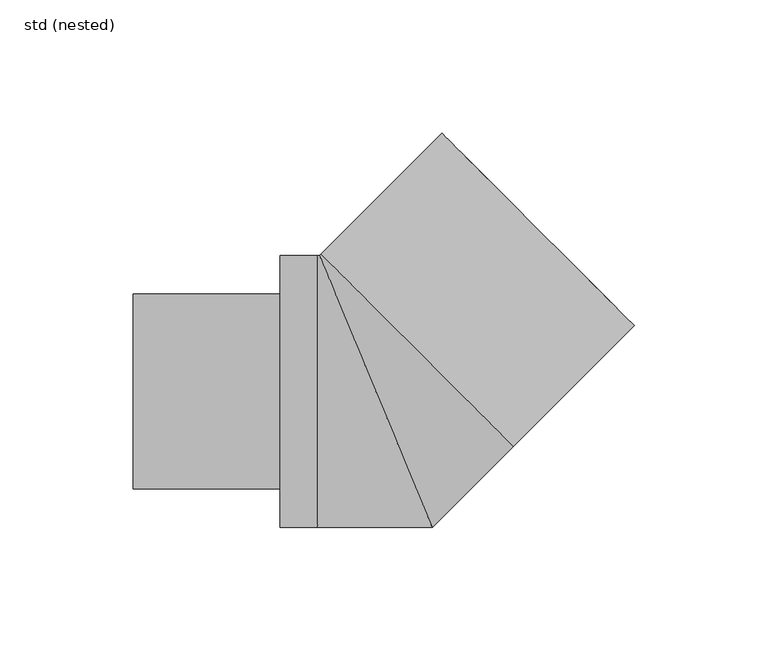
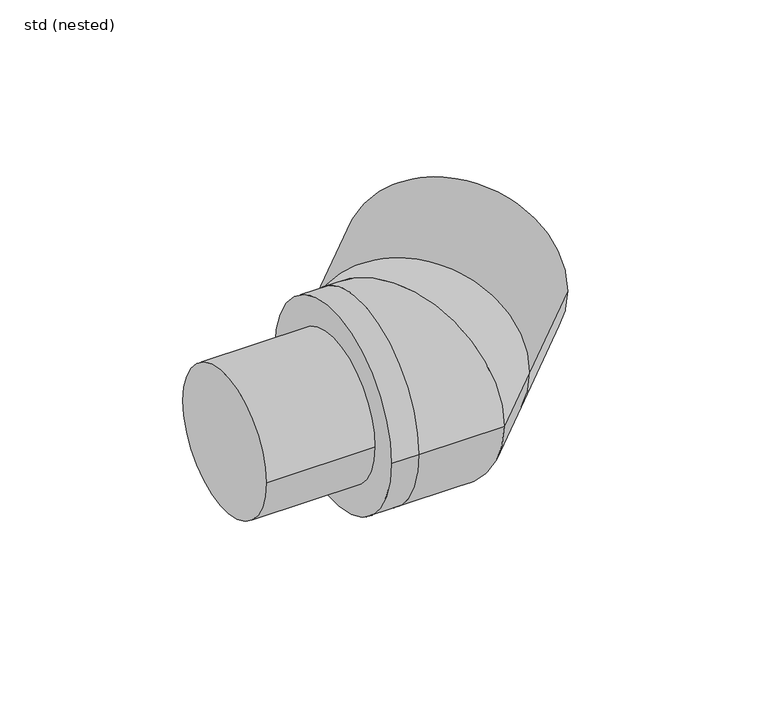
"""IFC4 building model written with IfcOpenShell, lengths in millimetres: pipe fitting geometry, ZZZ_do not use_PIF_ST_WPB_GM-X compound pipe bend_ACO : std (nested)."""

from ifc_helpers import new_model, si_unit, point, frame, origin, origin_2d, place, context, project, spatial, polyline, circle_curve, ellipse_curve, trimmed, segment, composite_curve, outline, extrude, source, transform, mapped, element, save
from ifc_brep_helpers import plane_surface, cylinder_surface, revolved_surface, advanced_brep


def std_nested_86b862b6(model_context):
    return source(origin(), model_context, "Body", "SolidModel", [
        advanced_brep(
        [(26.8700577, 86.4084487, 0.0), (86.4084487, 26.8700577, 0.0), (72.1956024, 12.6572114, 0.0), (12.6572114, 72.1956024, 0.0), (87.6812409, 33.9411255, 0.0), (33.9411255, 87.6812409, 0.0), (35.0017857, 86.6205807, 0.0), (86.6205807, 35.0017857, 0.0), (48.7903679, -4.9497475, 0.0), (-4.9497475, 48.7903679, 0.0), (47.7297077, -3.8890873, 0.0), (-3.8890873, 47.7297077, 0.0), (83.5093109, 29.7691955, 0.0), (29.7691955, 83.5093109, 0.0), (15.5563492, 69.2964646, 0.0), (69.2964646, 15.5563492, 0.0)],
        [
            (0, 1, circle_curve(frame((56.6392532, 56.6392532, 0.0), z_axis=(-0.7071067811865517, -0.7071067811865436, 0.0), x_axis=(-0.7071067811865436, 0.7071067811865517, 0.0)), 42.1)),
            (1, 2),
            (2, 3, circle_curve(frame((42.4264069, 42.4264069, 0.0), z_axis=(0.7071067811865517, 0.7071067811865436, 0.0), x_axis=(-0.7071067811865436, 0.7071067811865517, 0.0)), 42.1)),
            (3, 0),
            (1, 0, circle_curve(frame((56.6392532, 56.6392532, 0.0), z_axis=(-0.7071067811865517, -0.7071067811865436, 0.0), x_axis=(-0.7071067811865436, 0.7071067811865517, 0.0)), 42.1)),
            (3, 2, circle_curve(frame((42.4264069, 42.4264069, 0.0), z_axis=(0.7071067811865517, 0.7071067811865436, 0.0), x_axis=(-0.7071067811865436, 0.7071067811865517, 0.0)), 42.1)),
            (4, 5, circle_curve(frame((60.8111832, 60.8111832, 0.0), z_axis=(0.7071067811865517, 0.7071067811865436, 0.0), x_axis=(-0.7071067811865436, 0.7071067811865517, 0.0)), 38.0)),
            (5, 4, circle_curve(frame((60.8111832, 60.8111832, 0.0), z_axis=(0.7071067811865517, 0.7071067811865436, 0.0), x_axis=(-0.7071067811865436, 0.7071067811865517, 0.0)), 38.0)),
            (6, 7, circle_curve(frame((60.8111832, 60.8111832, 0.0), z_axis=(-0.7071067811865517, -0.7071067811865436, 0.0), x_axis=(-0.7071067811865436, 0.7071067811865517, 0.0)), 36.5)),
            (7, 6, circle_curve(frame((60.8111832, 60.8111832, 0.0), z_axis=(-0.7071067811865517, -0.7071067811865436, 0.0), x_axis=(-0.7071067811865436, 0.7071067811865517, 0.0)), 36.5)),
            (8, 9, circle_curve(frame((21.9203102, 21.9203102, 0.0), z_axis=(-0.7071067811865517, -0.7071067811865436, 0.0), x_axis=(-0.7071067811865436, 0.7071067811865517, 0.0)), 38.0)),
            (9, 8, circle_curve(frame((21.9203102, 21.9203102, 0.0), z_axis=(-0.7071067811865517, -0.7071067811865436, 0.0), x_axis=(-0.7071067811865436, 0.7071067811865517, 0.0)), 38.0)),
            (10, 11, circle_curve(frame((21.9203102, 21.9203102, 0.0), z_axis=(0.7071067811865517, 0.7071067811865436, 0.0), x_axis=(-0.7071067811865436, 0.7071067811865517, 0.0)), 36.5)),
            (11, 10, circle_curve(frame((21.9203102, 21.9203102, 0.0), z_axis=(0.7071067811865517, 0.7071067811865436, 0.0), x_axis=(-0.7071067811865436, 0.7071067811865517, 0.0)), 36.5)),
            (4, 12),
            (12, 13, circle_curve(frame((56.6392532, 56.6392532, 0.0), z_axis=(0.7071067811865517, 0.7071067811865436, 0.0), x_axis=(-0.7071067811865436, 0.7071067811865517, 0.0)), 38.0)),
            (13, 5),
            (9, 14),
            (14, 15, circle_curve(frame((42.4264069, 42.4264069, 0.0), z_axis=(-0.7071067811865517, -0.7071067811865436, 0.0), x_axis=(-0.7071067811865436, 0.7071067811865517, 0.0)), 38.0)),
            (15, 8),
            (13, 12, circle_curve(frame((56.6392532, 56.6392532, 0.0), z_axis=(0.7071067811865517, 0.7071067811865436, 0.0), x_axis=(-0.7071067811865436, 0.7071067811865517, 0.0)), 38.0)),
            (15, 14, circle_curve(frame((42.4264069, 42.4264069, 0.0), z_axis=(-0.7071067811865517, -0.7071067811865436, 0.0), x_axis=(-0.7071067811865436, 0.7071067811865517, 0.0)), 38.0)),
            (6, 11),
            (10, 7),
        ],
        [
            cylinder_surface(frame((42.4264069, 42.4264069, 0.0), z_axis=(0.7071067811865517, 0.7071067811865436, 0.0), x_axis=(-0.7071067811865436, 0.7071067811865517, 0.0)), 42.1),
            plane_surface(frame((33.9411255, 87.6812409, 0.0), z_axis=(0.7071067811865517, 0.7071067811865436, 0.0), x_axis=(0.0, 0.0, 1.0))),
            plane_surface(frame((-4.9497475, 48.7903679, 0.0), z_axis=(-0.7071067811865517, -0.7071067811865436, 0.0), x_axis=(0.0, 0.0, -1.0))),
            cylinder_surface(frame((21.9203102, 21.9203102, 0.0), z_axis=(0.7071067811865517, 0.7071067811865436, 0.0), x_axis=(-0.7071067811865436, 0.7071067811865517, 0.0)), 38.0),
            revolved_surface(polyline([(35.00178568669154, 86.62058071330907, 0.0), (-3.8890873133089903, 47.72970771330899, 0.0)]), (21.9203102, 21.9203102, 0.0), (0.7071067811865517, 0.7071067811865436, 0.0)),
            plane_surface(frame((26.8700577, 86.4084487, 0.0), z_axis=(0.7071067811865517, 0.7071067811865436, 0.0), x_axis=(0.0, 0.0, 1.0))),
            plane_surface(frame((12.6572114, 72.1956024, 0.0), z_axis=(-0.7071067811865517, -0.7071067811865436, 0.0), x_axis=(0.0, 0.0, -1.0))),
        ],
        [
            (0, [[1, 2, 3, 4]]),
            (0, [[5, -4, 6, -2]]),
            (1, [[7, 8], [9, 10]]),
            (2, [[11, 12], [13, 14]]),
            (3, [[-7, 15, 16, 17]]),
            (3, [[-12, 18, 19, 20]]),
            (3, [[-8, -17, 21, -15]]),
            (3, [[-11, -20, 22, -18]]),
            (4, [[23, -13, 24, -9]]),
            (4, [[-23, -10, -24, -14]]),
            (5, [[-1, -5], [-16, -21]]),
            (6, [[-6, -3], [-19, -22]]),
        ],
    ),
        extrude(outline(composite_curve([segment(trimmed(circle_curve(origin_2d(), 36.5), [point((-36.5, 0.0))], [point((36.5, 0.0))], False, "CARTESIAN"), True, "CONTINUOUS"), segment(trimmed(circle_curve(origin_2d(), 36.5), [point((36.5, 0.0))], [point((-36.5, 0.0))], False, "CARTESIAN"), True, "CONTINUOUS")], self_intersect=False)), frame((-91.0, 0.0, 0.0), z_axis=(1.0, 0.0, 0.0), x_axis=(0.0, 1.0, 0.0)), (0.0, 0.0, 1.0), 55.0),
        advanced_brep(
        [(24.7487373, 96.873629, 0.0), (96.873629, 24.7487373, 0.0), (87.6812409, 33.9411255, 0.0), (33.9411255, 87.6812409, 0.0), (-20.5391052, 51.5857864, 0.0), (51.5857864, -20.5391052, 0.0), (-21.9533188, -51.0, 0.0), (21.1248917, -51.0, 0.0), (-21.1248917, 51.0, 0.0), (-21.9533188, 51.0, 0.0), (-4.9497475, 48.7903679, 0.0), (48.7903679, -4.9497475, 0.0), (-36.0, -51.0, 0.0), (-36.0, 51.0, 0.0)],
        [
            (0, 1, circle_curve(frame((60.8111832, 60.8111832, 0.0), z_axis=(0.7071067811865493, 0.7071067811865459, 0.0), x_axis=(0.7071067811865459, -0.7071067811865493, 0.0)), 51.0)),
            (1, 0, circle_curve(frame((60.8111832, 60.8111832, 0.0), z_axis=(0.7071067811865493, 0.7071067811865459, 0.0), x_axis=(0.7071067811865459, -0.7071067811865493, 0.0)), 51.0)),
            (2, 3, circle_curve(frame((60.8111832, 60.8111832, 0.0), z_axis=(-0.7071067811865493, -0.7071067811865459, 0.0), x_axis=(0.7071067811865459, -0.7071067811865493, 0.0)), 38.0)),
            (3, 2, circle_curve(frame((60.8111832, 60.8111832, 0.0), z_axis=(-0.7071067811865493, -0.7071067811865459, 0.0), x_axis=(0.7071067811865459, -0.7071067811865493, 0.0)), 38.0)),
            (0, 4),
            (4, 5, circle_curve(frame((15.5233406, 15.5233406, 0.0), z_axis=(0.7071067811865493, 0.7071067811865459, 0.0), x_axis=(0.7071067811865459, -0.7071067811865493, 0.0)), 51.0)),
            (5, 1),
            (5, 4, circle_curve(frame((15.5233406, 15.5233406, 0.0), z_axis=(0.7071067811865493, 0.7071067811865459, 0.0), x_axis=(0.7071067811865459, -0.7071067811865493, 0.0)), 51.0)),
            (6, 7),
            (7, 8, ellipse_curve(frame((0.0, 0.0, 0.0), z_axis=(-0.9238795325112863, -0.38268343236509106, 0.0), x_axis=(-0.3826834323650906, 0.9238795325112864, 0.0)), 55.2020022, 51.0)),
            (8, 9),
            (9, 6, circle_curve(frame((-21.9533188, 0.0, 0.0), z_axis=(1.0, 0.0, 0.0), x_axis=(0.0, 1.0, 0.0)), 51.0)),
            (6, 9, circle_curve(frame((-21.9533188, 0.0, 0.0), z_axis=(1.0, 0.0, 0.0), x_axis=(0.0, 1.0, 0.0)), 51.0)),
            (8, 7, ellipse_curve(frame((0.0, 0.0, 0.0), z_axis=(-0.9238795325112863, -0.38268343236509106, 0.0), x_axis=(-0.3826834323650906, 0.9238795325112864, 0.0)), 55.2020022, 51.0)),
            (7, 5),
            (4, 8),
            (10, 11, circle_curve(frame((21.9203102, 21.9203102, 0.0), z_axis=(0.7071067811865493, 0.7071067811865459, 0.0), x_axis=(0.7071067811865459, -0.7071067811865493, 0.0)), 38.0)),
            (11, 10, circle_curve(frame((21.9203102, 21.9203102, 0.0), z_axis=(0.7071067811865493, 0.7071067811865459, 0.0), x_axis=(0.7071067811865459, -0.7071067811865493, 0.0)), 38.0)),
            (10, 3),
            (2, 11),
            (12, 13, circle_curve(frame((-36.0, 0.0, 0.0), z_axis=(-1.0, 0.0, 0.0), x_axis=(0.0, 1.0, 0.0)), 51.0)),
            (13, 12, circle_curve(frame((-36.0, 0.0, 0.0), z_axis=(-1.0, 0.0, 0.0), x_axis=(0.0, 1.0, 0.0)), 51.0)),
            (9, 13),
            (12, 6),
        ],
        [
            plane_surface(frame((96.873629, 24.7487373, 0.0), z_axis=(0.7071067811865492, 0.7071067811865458, 0.0), x_axis=(0.0, 0.0, -1.0))),
            cylinder_surface(frame((15.5233406, 15.5233406, 0.0), z_axis=(0.7071067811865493, 0.7071067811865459, 0.0), x_axis=(0.7071067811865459, -0.7071067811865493, 0.0)), 51.0),
            cylinder_surface(frame((-21.9533188, 0.0, 0.0), z_axis=(-1.0, 0.0, 0.0), x_axis=(0.0, 1.0, 0.0)), 51.0),
            cylinder_surface(frame((0.0, 0.0, 0.0), z_axis=(-0.7071067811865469, -0.7071067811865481, 0.0), x_axis=(-0.7071067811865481, 0.7071067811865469, 0.0)), 51.0),
            plane_surface(frame((48.7903679, -4.9497475, 0.0), z_axis=(0.7071067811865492, 0.7071067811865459, 0.0), x_axis=(0.0, 0.0, 1.0))),
            revolved_surface(polyline([(87.68124088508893, 33.94112551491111, 0.0), (48.79036788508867, -4.949747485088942, 0.0)]), (21.9203102, 21.9203102, 0.0), (0.7071067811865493, 0.7071067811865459, 0.0)),
            plane_surface(frame((-36.0, 51.0, 0.0), z_axis=(-1.0, 0.0, 0.0), x_axis=(0.0, 0.0, 1.0))),
        ],
        [
            (0, [[1, 2], [3, 4]]),
            (1, [[-1, 5, 6, 7]]),
            (1, [[-2, -7, 8, -5]]),
            (2, [[9, 10, 11, 12]]),
            (2, [[-9, 13, -11, 14]]),
            (3, [[-10, 15, -6, 16]]),
            (3, [[-14, -16, -8, -15]]),
            (4, [[17, 18]]),
            (5, [[-17, 19, -3, 20]]),
            (5, [[-18, -20, -4, -19]]),
            (6, [[21, 22]]),
            (2, [[-12, 23, -21, 24]]),
            (2, [[-13, -24, -22, -23]]),
        ],
    ),
    ])


if __name__ == "__main__":
    model = new_model("IFC4")
    model_context = context("Model", 3, world=origin())
    ifc_project = project(units=[si_unit("LENGTHUNIT", "METRE", prefix="MILLI")], contexts=[model_context])
    site = spatial("IfcSite", under=ifc_project)
    building = spatial("IfcBuilding", under=site)
    placement = place(None, origin())
    std_nested_shape = std_nested_86b862b6(model_context)
    element("IfcPipeFitting", 1, ObjectType="ZZZ_do not use_PIF_ST_WPB_GM-X compound pipe bend_ACO : std (nested)", at=placement, inside=building, context=model_context, shape_type="MappedRepresentation", body=[
        mapped(std_nested_shape, transform((0.0, 0.0, 0.0), x_axis=(1.0, 0.0, 0.0), y_axis=(0.0, 1.0, 0.0), z_axis=(0.0, 0.0, 1.0))),
    ])
    save(model, "model.ifc")
